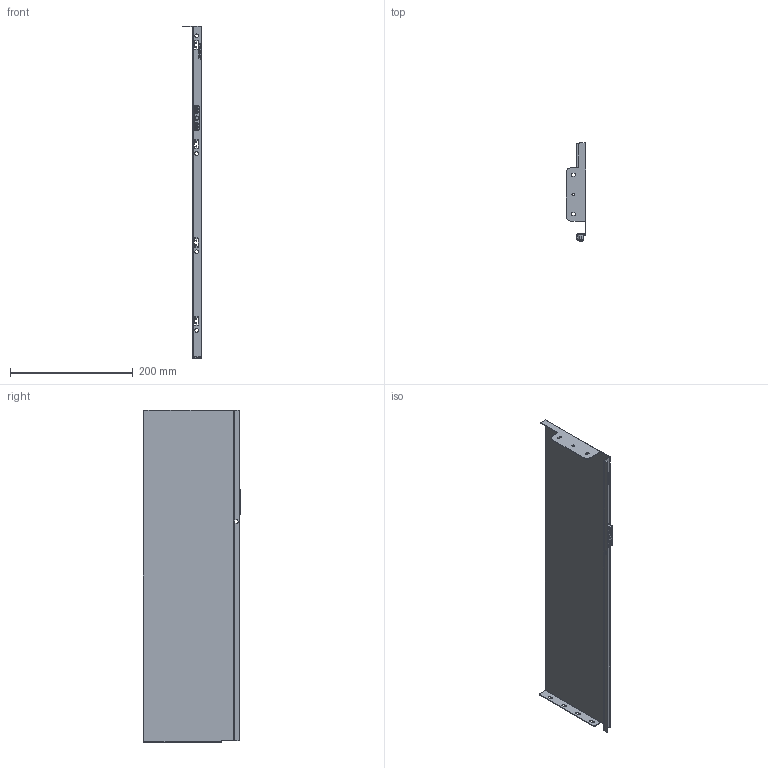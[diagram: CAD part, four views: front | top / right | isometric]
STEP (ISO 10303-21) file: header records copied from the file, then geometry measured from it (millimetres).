
FILE_DESCRIPTION (( 'STEP AP203' ), '1' );
FILE_NAME ('HL13550R.STEP', '2021-07-31T00:44:42', ( 'Users' ), ( 'Microsoft' ), 'SwSTEP 2.0', 'SolidWorks 2018', '' );
FILE_SCHEMA (( 'CONFIG_CONTROL_DESIGN' ));
Length unit declared in the file: millimetre
Products named in the file (1): HL13550R
Bounding box: 32.6 x 159.7 x 541.2 mm (x, y, z)
Volume: 118413.1 mm3; surface area: 196396.2 mm2
Topology: 1 solids, 1 shells, 454 faces, 1242 edges, 806 vertices
Faces by surface type: cylinder 169, plane 168, bspline 60, torus 55, cone 2
Entity records: 17838 total; most frequent: CARTESIAN_POINT 6224, ORIENTED_EDGE 2476, DIRECTION 2359, EDGE_CURVE 1238, AXIS2_PLACEMENT_3D 850, VERTEX_POINT 806, LINE 659, VECTOR 659
